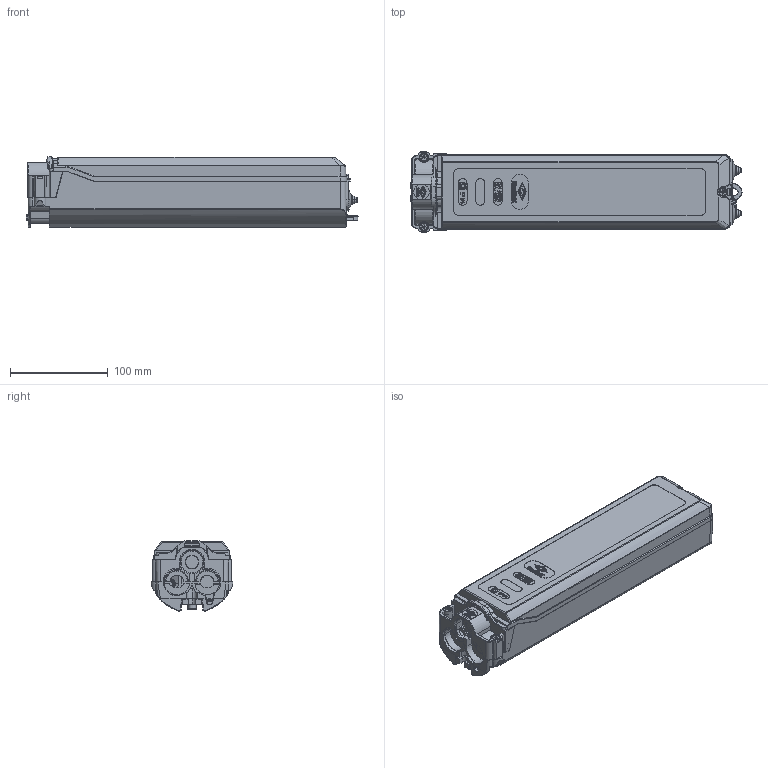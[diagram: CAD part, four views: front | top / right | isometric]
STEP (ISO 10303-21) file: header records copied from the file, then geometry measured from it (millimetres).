
FILE_DESCRIPTION (( 'STEP AP203' ), '1' );
FILE_NAME ('3D - HSW2500 Außenkontur.STEP', '2019-06-28T09:14:06', ( '' ), ( '' ), 'SwSTEP 2.0', 'SolidWorks 2013', '' );
FILE_SCHEMA (( 'CONFIG_CONTROL_DESIGN' ));
Length unit declared in the file: millimetre
Products named in the file (1): 3D - HSW2500 Außenkontur
Bounding box: 339.54 x 83.5 x 71.86 mm (x, y, z)
Surface area: 137244.4 mm2 (no closed solid volume)
Topology: 0 solids, 26 shells, 1159 faces, 4153 edges, 2929 vertices
Faces by surface type: plane 534, cylinder 291, bspline 131, cone 99, torus 94, sphere 10
Entity records: 54304 total; most frequent: CARTESIAN_POINT 20983, ORIENTED_EDGE 6663, DIRECTION 6303, EDGE_CURVE 4147, VERTEX_POINT 2929, VECTOR 2415, LINE 2415, AXIS2_PLACEMENT_3D 1944
